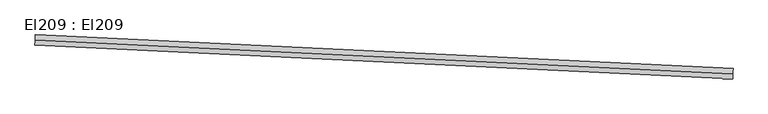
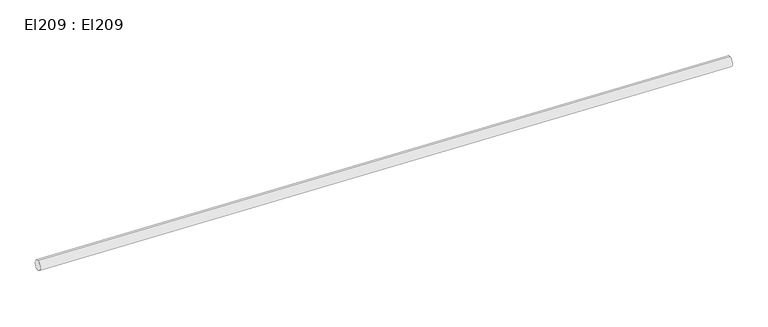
"""IFC4 building model written with IfcOpenShell, lengths in millimetres: cable carrier segment geometry, El209 : El209."""

import ifcopenshell
import ifcopenshell.guid

model = None  # the IFC model being written
_history = None  # IfcOwnerHistory: only IFC2X3 demands one
_inside = {}  # id of a spatial element -> (the spatial element, [elements in it])
_under = {}  # id of a project, library or spatial element -> (it, [spatial elements below it])
_declared = {}  # id of a project -> (the project, [libraries it declares])
_typed = {}  # id of a type object -> (the type object, [elements of that type])
_made_of = {}  # id of a material, layer set ... -> (it, [elements and type objects made of it])


def new_model(schema):
    """Start an empty IFC model of exactly this schema.

    Asked for "IFC4X3", IfcOpenShell would pick the latest addendum, in which some entities
    have other attributes; the version numbers below select the first issue.
    IFC2X3 requires an IfcOwnerHistory on every rooted entity: one is made here for all.
    """
    global model, _history
    if schema == "IFC4X3":
        model = ifcopenshell.file(schema_version=(4, 3, 0, 0))
    else:
        model = ifcopenshell.file(schema=schema)
    _inside.clear()
    _under.clear()
    _declared.clear()
    _typed.clear()
    _made_of.clear()
    _history = None
    if model.schema == "IFC2X3":
        org = make("IfcOrganization", Name="unknown")
        user = make(
            "IfcPersonAndOrganization",
            ThePerson=make("IfcPerson", FamilyName="unknown"),
            TheOrganization=org,
        )
        app = make(
            "IfcApplication",
            ApplicationDeveloper=org,
            Version="unknown",
            ApplicationFullName="unknown",
            ApplicationIdentifier="unknown",
        )
        _history = make(
            "IfcOwnerHistory",
            OwningUser=user,
            OwningApplication=app,
            ChangeAction="ADDED",
            CreationDate=0,
        )
    return model


def make(cls, **values):
    """One entity of the class cls with the attributes given. An attribute that is None is left unset."""
    return model.create_entity(
        cls, **{name: value for name, value in values.items() if value is not None}
    )


def rooted(cls, **values):
    """An entity with a GlobalId (a new one), such as an element, a storey or a relation."""
    return make(cls, GlobalId=ifcopenshell.guid.new(), OwnerHistory=_history, **values)


def si_unit(unit_type, name, prefix=None):
    """IfcSIUnit, for example si_unit("LENGTHUNIT", "METRE", prefix="MILLI")."""
    return make("IfcSIUnit", UnitType=unit_type, Prefix=prefix, Name=name)


def assignment(units):
    """IfcUnitAssignment: the units of a project."""
    return None if units is None else make("IfcUnitAssignment", Units=units)


def point(xyz):
    """IfcCartesianPoint."""
    return None if xyz is None else make("IfcCartesianPoint", Coordinates=xyz)


def direction(xyz):
    """IfcDirection."""
    return None if xyz is None else make("IfcDirection", DirectionRatios=xyz)


def frame(location, z_axis=None, x_axis=None):
    """IfcAxis2Placement3D, a coordinate frame: its origin and axes. An axis left out is left unset."""
    return make(
        "IfcAxis2Placement3D",
        Location=point(location),
        Axis=direction(z_axis),
        RefDirection=direction(x_axis),
    )


def frame_2d(location, x_axis=None):
    """IfcAxis2Placement2D, a coordinate frame in the plane: its origin and x axis."""
    return make(
        "IfcAxis2Placement2D", Location=point(location), RefDirection=direction(x_axis)
    )


def origin():
    """The frame at (0, 0, 0) with its axes left unset."""
    return frame((0.0, 0.0, 0.0))


def place(relative_to, where):
    """IfcLocalPlacement: puts the frame where relative to a parent placement (None: the world)."""
    return make(
        "IfcLocalPlacement", PlacementRelTo=relative_to, RelativePlacement=where
    )


def context(
    kind, dimensions, precision=None, world=None, true_north=None, identifier=None
):
    """IfcGeometricRepresentationContext, for example the 3D "Model" context."""
    return make(
        "IfcGeometricRepresentationContext",
        ContextIdentifier=identifier,
        ContextType=kind,
        CoordinateSpaceDimension=dimensions,
        Precision=precision,
        WorldCoordinateSystem=world,
        TrueNorth=true_north,
    )


def project(units=None, contexts=None):
    """IfcProject with its units and contexts."""
    return rooted(
        "IfcProject",
        Name="project",
        RepresentationContexts=contexts,
        UnitsInContext=assignment(units),
    )


def spatial(cls, under=None, at=None, **own):
    """A site, building, storey or space (cls), placed at a placement, below another one or the project."""
    s = rooted(cls, ObjectPlacement=at, **own)
    if under is not None:
        _under.setdefault(under.id(), (under, []))[1].append(s)
    return s


def circle_curve(where, radius):
    """IfcCircle in the frame where."""
    return make("IfcCircle", Position=where, Radius=radius)


def trimmed(basis, trim1, trim2, sense, master):
    """IfcTrimmedCurve: the piece of a basis curve between two trims."""
    return make(
        "IfcTrimmedCurve",
        BasisCurve=basis,
        Trim1=trim1,
        Trim2=trim2,
        SenseAgreement=sense,
        MasterRepresentation=master,
    )


def segment(curve, same_sense, transition):
    """IfcCompositeCurveSegment."""
    return make(
        "IfcCompositeCurveSegment",
        Transition=transition,
        SameSense=same_sense,
        ParentCurve=curve,
    )


def composite_curve(segments, self_intersect=None):
    """IfcCompositeCurve: segments joined end to end."""
    return make("IfcCompositeCurve", Segments=segments, SelfIntersect=self_intersect)


def outline(outer, holes=None, kind="AREA"):
    """IfcArbitraryClosedProfileDef: a profile drawn as a closed curve; with holes, ...WithVoids."""
    if holes is None:
        return make("IfcArbitraryClosedProfileDef", ProfileType=kind, OuterCurve=outer)
    return make(
        "IfcArbitraryProfileDefWithVoids",
        ProfileType=kind,
        OuterCurve=outer,
        InnerCurves=holes,
    )


def extrude(swept, where, along, depth):
    """IfcExtrudedAreaSolid: the profile swept, set in the frame where, extruded along a direction by depth."""
    return make(
        "IfcExtrudedAreaSolid",
        SweptArea=swept,
        Position=where,
        ExtrudedDirection=direction(along),
        Depth=depth,
    )


def shape(context_of_items, identifier, shape_type, items):
    """IfcShapeRepresentation: the items that make up one representation, for example the "Body"."""
    return make(
        "IfcShapeRepresentation",
        ContextOfItems=context_of_items,
        RepresentationIdentifier=identifier,
        RepresentationType=shape_type,
        Items=items,
    )


def source(mapping_origin, context_of_items, identifier, shape_type, items):
    """IfcRepresentationMap: a shape defined once, which mapped items show again and again."""
    return make(
        "IfcRepresentationMap",
        MappingOrigin=mapping_origin,
        MappedRepresentation=shape(context_of_items, identifier, shape_type, items),
    )


def transform(
    local_origin,
    x_axis=None,
    y_axis=None,
    z_axis=None,
    scale=None,
    scale2=None,
    scale3=None,
    uniform=True,
):
    """IfcCartesianTransformationOperator3D, or its non-uniform kind. x_axis, y_axis, z_axis: its Axis1, 2, 3."""
    if uniform:
        return make(
            "IfcCartesianTransformationOperator3D",
            Axis1=direction(x_axis),
            Axis2=direction(y_axis),
            LocalOrigin=point(local_origin),
            Scale=scale,
            Axis3=direction(z_axis),
        )
    return make(
        "IfcCartesianTransformationOperator3DnonUniform",
        Axis1=direction(x_axis),
        Axis2=direction(y_axis),
        LocalOrigin=point(local_origin),
        Scale=scale,
        Axis3=direction(z_axis),
        Scale2=scale2,
        Scale3=scale3,
    )


def mapped(mapping_source, mapping_target):
    """IfcMappedItem: shows the shape of a source again, moved by a transform."""
    return make(
        "IfcMappedItem", MappingSource=mapping_source, MappingTarget=mapping_target
    )


def made_of(thing, what):
    """Note that an element or type object is made of a material, layer set ...; save() writes the relation."""
    if what is not None:
        _made_of.setdefault(what.id(), (what, []))[1].append(thing)
    return thing


def element(
    cls,
    number,
    at=None,
    inside=None,
    cuts=None,
    type_object=None,
    material=None,
    context=None,
    identifier="Body",
    shape_type=None,
    held_by="IfcProductDefinitionShape",
    body=None,
    shapes=None,
    **own,
):
    """One element of the class cls, such as IfcWall. Its Tag is "e" and its number.

    at: its placement. inside: the storey or other place that contains it. cuts: it is an
    opening in that element (IfcRelVoidsElement). A single representation is given by context,
    identifier, shape_type and body (its items); several are given by shapes. held_by: the class
    of the entity that holds the representations. save() writes the other relations.
    """
    e = rooted(cls, Tag="e%d" % number, ObjectPlacement=at, **own)
    if body is not None:
        shapes = [shape(context, identifier, shape_type, body)]
    if shapes is not None:
        e.Representation = make(held_by, Representations=shapes)
    if inside is not None:
        _inside.setdefault(inside.id(), (inside, []))[1].append(e)
    if cuts is not None:
        rooted(
            "IfcRelVoidsElement", RelatingBuildingElement=cuts, RelatedOpeningElement=e
        )
    if type_object is not None:
        _typed.setdefault(type_object.id(), (type_object, []))[1].append(e)
    return made_of(e, material)


def aggregate(whole, parts):
    """IfcRelAggregates: a whole, such as a stair, and the parts it consists of."""
    return rooted("IfcRelAggregates", RelatingObject=whole, RelatedObjects=parts)


def save(model, path):
    """Write the relations noted so far, then the file.

    IfcRelAggregates (storeys below a building ...), IfcRelContainedInSpatialStructure (elements
    in a storey), IfcRelDefinesByType, IfcRelAssociatesMaterial and IfcRelDeclares: one each for
    every whole, place, type object, material and project.
    """
    for whole, parts in _under.values():
        aggregate(whole, parts)
    for where, things in _inside.values():
        rooted(
            "IfcRelContainedInSpatialStructure",
            RelatedElements=things,
            RelatingStructure=where,
        )
    for kind, things in _typed.values():
        rooted("IfcRelDefinesByType", RelatedObjects=things, RelatingType=kind)
    for what, things in _made_of.values():
        rooted("IfcRelAssociatesMaterial", RelatedObjects=things, RelatingMaterial=what)
    for by, libraries in _declared.values():
        rooted("IfcRelDeclares", RelatingContext=by, RelatedDefinitions=libraries)
    model.write(path)


def el209_el209_d8206212(model_context):
    return source(origin(), model_context, "Body", "SweptSolid", [
        extrude(outline(composite_curve([segment(trimmed(circle_curve(frame_2d((0.0, -9.5)), 9.5), [point((0.0, -19.0))], [point((0.0, 0.0))], False, "CARTESIAN"), True, "CONTINUOUS"), segment(trimmed(circle_curve(frame_2d((0.0, -9.5)), 9.5), [point((0.0, 0.0))], [point((0.0, -19.0))], False, "CARTESIAN"), True, "CONTINUOUS")], self_intersect=False)), frame((3330.7787016, 26703.3264111, 2959.5), z_axis=(-0.9988113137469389, 0.048743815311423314, 0.0), x_axis=(-0.048743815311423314, -0.9988113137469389, 0.0)), (0.0, 0.0, 1.0), 1283.18),
    ])


if __name__ == "__main__":
    model = new_model("IFC4")
    model_context = context("Model", 3, world=origin())
    ifc_project = project(units=[si_unit("LENGTHUNIT", "METRE", prefix="MILLI")], contexts=[model_context])
    site = spatial("IfcSite", under=ifc_project)
    building = spatial("IfcBuilding", under=site)
    placement = place(None, origin())
    el209_el209_shape = el209_el209_d8206212(model_context)
    element("IfcCableCarrierSegment", 1, ObjectType="El209 : El209", at=placement, inside=building, context=model_context, shape_type="MappedRepresentation", body=[
        mapped(el209_el209_shape, transform((0.0, 0.0, 0.0), x_axis=(1.0, 0.0, 0.0), y_axis=(0.0, 1.0, 0.0), z_axis=(0.0, 0.0, 1.0))),
    ])
    save(model, "model.ifc")
